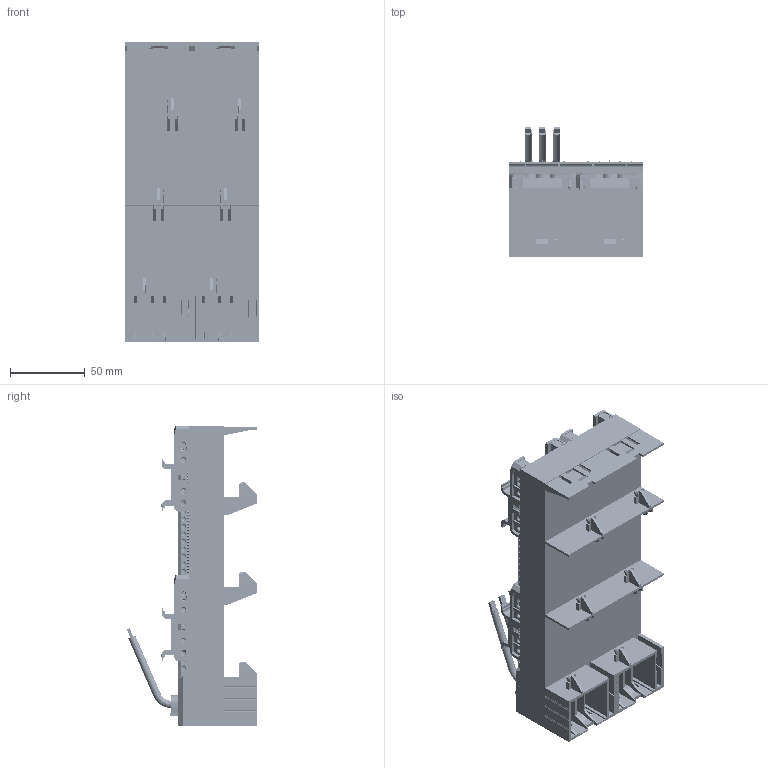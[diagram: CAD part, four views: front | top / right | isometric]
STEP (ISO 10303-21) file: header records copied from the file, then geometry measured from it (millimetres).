
FILE_DESCRIPTION (( 'STEP AP203' ), '1' );
FILE_NAME ('55349.STEP', '2021-08-17T00:54:43', ( '' ), ( '' ), 'SwSTEP 2.0', 'SolidWorks 2017', '' );
FILE_SCHEMA (( 'CONFIG_CONTROL_DESIGN' ));
Products named in the file (2): 55349
Bounding box: 90 x 87.2 x 201.13 mm (x, y, z)
Volume: 543756.7 mm3; surface area: 168686.7 mm2
Topology: 9 solids, 25 shells, 4314 faces, 12341 edges, 8366 vertices
Faces by surface type: plane 2719, cylinder 1224, cone 332, bspline 39
Full cylindrical faces by diameter (mm): 1.988 x260, 2.779 x16, 2.882 x24, 2.982 x260, 4.864 x16, 5 x6, 5.169 x4
Entity records: 185452 total; most frequent: CARTESIAN_POINT 84047, ORIENTED_EDGE 21860, DIRECTION 17612, EDGE_CURVE 10930, VERTEX_POINT 7828, VECTOR 6638, LINE 6638, EDGE_LOOP 5696
